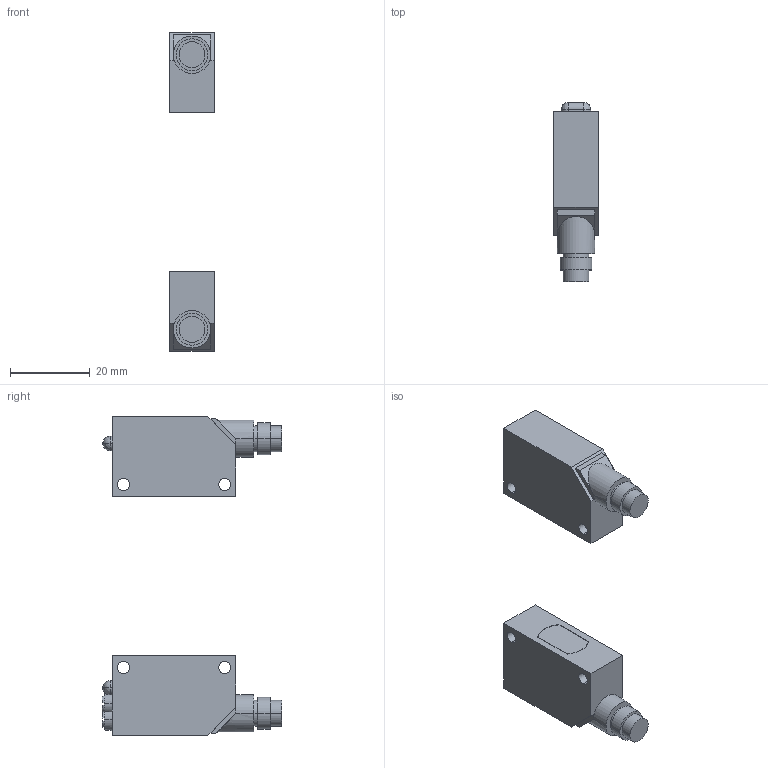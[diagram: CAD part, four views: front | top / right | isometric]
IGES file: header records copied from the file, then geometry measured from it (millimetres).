
Start section: SolidWorks IGES FILE using analytic representation for surfaces
Global section: file name: \\Intra-srv04\開発データ\CAD_Data\CAD委員会\3D電子ｶﾀﾛｸﾞ\製品カタログ（新）\0_IGES\CX-411-Z.IGS,41HSolidWorks 2004; native system: by SolidWorks Corporation; preprocessor: Version 5.3; author: yk0651; date: 050905.114201; units: millimetre
Bounding box: 11.2 x 45 x 80 mm (x, y, z)
Volume: 14687.2 mm3; surface area: 5825.3 mm2
Topology: 2 solids, 2 shells, 116 faces, 281 edges, 174 vertices
Faces by surface type: revolution 63, plane 53
